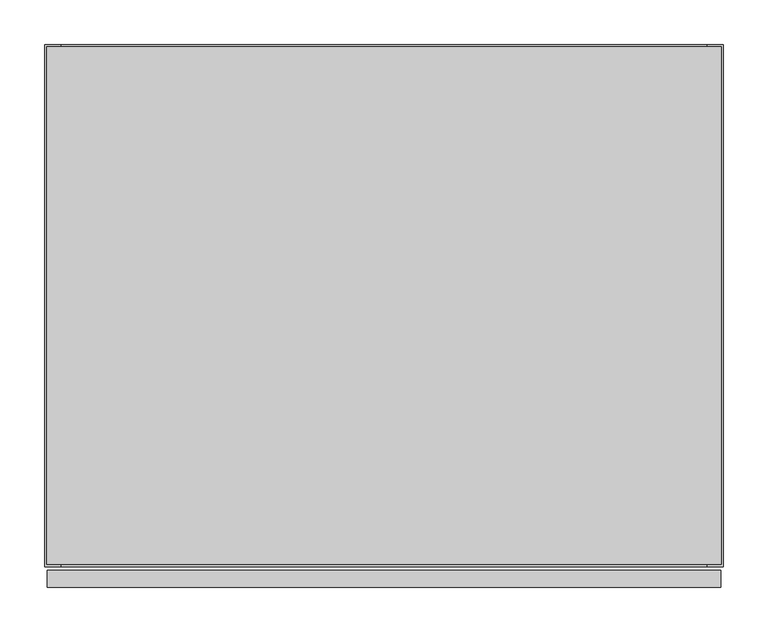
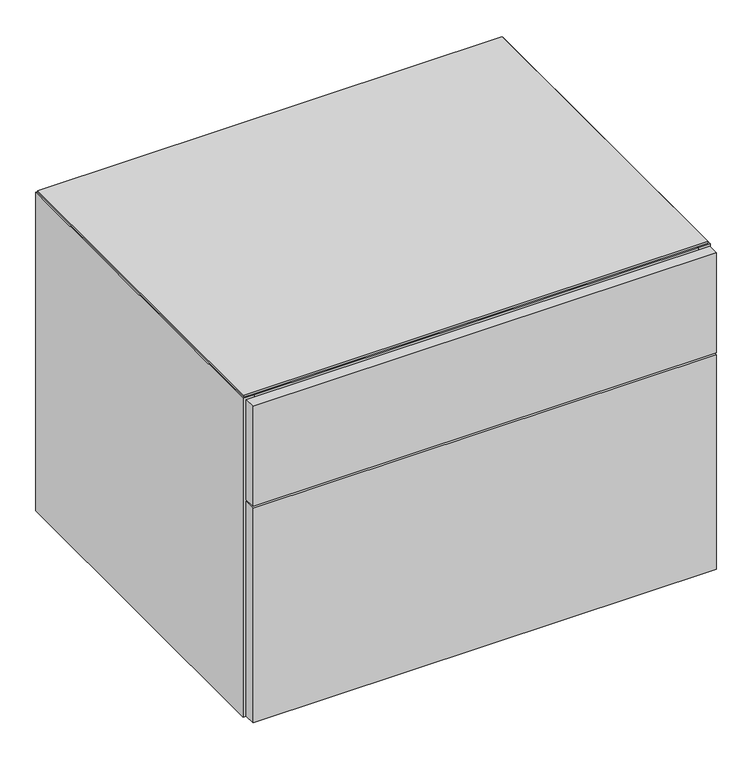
"""IFC4 building model written with IfcOpenShell, lengths in millimetres: furniture geometry, Geiger_GeigerOneCasegoods_LowStorage1Box1File : Vertical Veneer 30Wx24Dx21.75H."""

from ifc_helpers import new_model, si_unit, point, frame, origin, place, context, project, spatial, polyline, circle_curve, ellipse_curve, trimmed, outline, extrude, source, transform, mapped, element, save
from ifc_brep_helpers import plane_surface, cylinder_surface, revolved_surface, advanced_brep


def furniture_3015be08(model_context):
    return source(origin(), model_context, "Body", "SolidModel", [
        extrude(outline(polyline([(19.0, -19.5), (743.0, -19.5), (743.0, -586.4), (19.0, -586.4), (19.0, -19.5)])), frame((0.0, 0.0, 73.2), z_axis=(0.0, 0.0, 1.0), x_axis=(1.0, 0.0, 0.0)), (0.0, 0.0, 1.0), 19.5072),
        extrude(outline(polyline([(3.0, -590.4), (759.0, -590.4), (759.0, -609.6), (3.0, -609.6), (3.0, -590.4)])), frame((0.0, 0.0, 15.7), z_axis=(0.0, 0.0, 1.0), x_axis=(1.0, 0.0, 0.0)), (0.0, 0.0, 1.0), 370.0),
        extrude(outline(polyline([(3.0, -590.4), (759.0, -590.4), (759.0, -609.6), (3.0, -609.6), (3.0, -590.4)])), frame((0.0, 0.0, 388.7), z_axis=(0.0, 0.0, 1.0), x_axis=(1.0, 0.0, 0.0)), (0.0, 0.0, 1.0), 172.2),
        extrude(outline(polyline([(19.0, -19.5), (743.0, -19.5), (743.0, -566.9), (19.0, -566.9), (19.0, -19.5)])), frame((0.0, 0.0, 12.7), z_axis=(0.0, 0.0, 1.0), x_axis=(1.0, 0.0, 0.0)), (0.0, 0.0, 1.0), 19.5),
        extrude(outline(polyline([(759.46, -2.54), (759.46, -583.86), (2.54, -583.86), (2.54, -2.54), (759.46, -2.54)])), frame((0.0, 0.0, 561.7), z_axis=(0.0, 0.0, 1.0), x_axis=(1.0, 0.0, 0.0)), (0.0, 0.0, 1.0), 3.2766),
        extrude(outline(polyline([(19.0, -95.7), (743.0, -95.7), (743.0, -586.4), (19.0, -586.4), (19.0, -95.7)])), frame((0.0, 0.0, 542.2), z_axis=(0.0, 0.0, 1.0), x_axis=(1.0, 0.0, 0.0)), (0.0, 0.0, 1.0), 19.5),
        extrude(outline(polyline([(743.0, -19.5), (19.0, -19.5), (19.0, 0.0), (743.0, 0.0), (743.0, -19.5)])), frame((0.0, 0.0, 12.7), z_axis=(0.0, 0.0, 1.0), x_axis=(1.0, 0.0, 0.0)), (0.0, 0.0, 1.0), 549.0),
        extrude(outline(polyline([(19.0, -566.9), (743.0, -566.9), (743.0, -586.4), (19.0, -586.4), (19.0, -566.9)])), frame((0.0, 0.0, 12.7), z_axis=(0.0, 0.0, 1.0), x_axis=(1.0, 0.0, 0.0)), (0.0, 0.0, 1.0), 60.5),
        extrude(outline(polyline([(19.0, -586.4), (0.0, -586.4), (0.0, -0.5), (19.0, -0.5), (19.0, -586.4)])), frame((0.0, 0.0, 12.7), z_axis=(0.0, 0.0, 1.0), x_axis=(1.0, 0.0, 0.0)), (0.0, 0.0, 1.0), 549.0),
        extrude(outline(polyline([(762.0, -586.4), (743.0, -586.4), (743.0, -0.5), (762.0, -0.5), (762.0, -586.4)])), frame((0.0, 0.0, 12.7), z_axis=(0.0, 0.0, 1.0), x_axis=(1.0, 0.0, 0.0)), (0.0, 0.0, 1.0), 549.0),
        advanced_brep(
        [(94.0575663, -528.9165105, 0.0), (71.9424337, -528.9165105, 0.0), (83.0, -528.9165105, 0.0), (94.0575663, -528.9165105, 9.5), (71.9424337, -528.9165105, 9.5), (87.066455, -528.9165105, 9.5), (78.933545, -528.9165105, 9.5), (87.066455, -528.9165105, 12.7), (78.933545, -528.9165105, 12.7), (83.0, -528.9165105, 12.7)],
        [
            (0, 1, circle_curve(frame((83.0, -528.9165105, 0.0), z_axis=(0.0, 0.0, -1.0), x_axis=(-1.0, 0.0, 0.0)), 11.0575663)),
            (1, 2),
            (2, 0),
            (1, 0, circle_curve(frame((83.0, -528.9165105, 0.0), z_axis=(0.0, 0.0, -1.0), x_axis=(-1.0, 0.0, 0.0)), 11.0575663)),
            (0, 3, circle_curve(frame((94.0575663, -528.9165105, 4.75), z_axis=(0.0, -1.0, 0.0), x_axis=(1.0, 0.0, 0.0)), 4.75)),
            (3, 4, circle_curve(frame((83.0, -528.9165105, 9.5), z_axis=(0.0, 0.0, -1.0), x_axis=(-1.0, 0.0, 0.0)), 11.0575663)),
            (4, 1, circle_curve(frame((71.9424337, -528.9165105, 4.75), z_axis=(0.0, -1.0, 0.0), x_axis=(-1.0, 0.0, 0.0)), 4.75)),
            (4, 3, circle_curve(frame((83.0, -528.9165105, 9.5), z_axis=(0.0, 0.0, -1.0), x_axis=(-1.0, 0.0, 0.0)), 11.0575663)),
            (3, 5),
            (5, 6, circle_curve(frame((83.0, -528.9165105, 9.5), z_axis=(0.0, 0.0, -1.0), x_axis=(-1.0, 0.0, 0.0)), 4.066455)),
            (6, 4),
            (6, 5, circle_curve(frame((83.0, -528.9165105, 9.5), z_axis=(0.0, 0.0, -1.0), x_axis=(-1.0, 0.0, 0.0)), 4.066455)),
            (5, 7),
            (7, 8, circle_curve(frame((83.0, -528.9165105, 12.7), z_axis=(0.0, 0.0, -1.0), x_axis=(-1.0, 0.0, 0.0)), 4.066455)),
            (8, 6),
            (8, 7, circle_curve(frame((83.0, -528.9165105, 12.7), z_axis=(0.0, 0.0, -1.0), x_axis=(-1.0, 0.0, 0.0)), 4.066455)),
            (7, 9),
            (9, 8),
        ],
        [
            plane_surface(frame((83.0, -528.9165105, 0.0), z_axis=(0.0, 0.0, -1.0), x_axis=(-1.0, 0.0, 0.0))),
            revolved_surface(trimmed(ellipse_curve(frame((71.9424337, -528.9165105, 4.75), z_axis=(0.0, 1.0, 0.0), x_axis=(-1.0, 0.0, 0.0)), 4.75, 4.75), [point((71.9424337, -528.9165105, 0.0))], [point((71.9424337, -528.9165105, 9.5))], True, "CARTESIAN"), (83.0, -528.9165105, 0.0), (0.0, 0.0, 1.0)),
            plane_surface(frame((83.0, -528.9165105, 9.5), z_axis=(0.0, 0.0, 1.0), x_axis=(-1.0, 0.0, 0.0))),
            cylinder_surface(frame((83.0, -528.9165105, 0.0), z_axis=(0.0, 0.0, 1.0), x_axis=(-1.0, 0.0, 0.0)), 4.066455),
            plane_surface(frame((83.0, -528.9165105, 12.7), z_axis=(0.0, 0.0, 1.0), x_axis=(-1.0, 0.0, 0.0))),
        ],
        [
            (0, [[1, 2, 3]]),
            (0, [[-2, 4, -3]]),
            (1, [[-1, 5, 6, 7]]),
            (1, [[-4, -7, 8, -5]]),
            (2, [[-6, 9, 10, 11]]),
            (2, [[-8, -11, 12, -9]]),
            (3, [[-10, 13, 14, 15]]),
            (3, [[-12, -15, 16, -13]]),
            (4, [[-14, 17, 18]]),
            (4, [[-16, -18, -17]]),
        ],
    ),
        advanced_brep(
        [(94.0575663, -127.0, 0.0), (71.9424337, -127.0, 0.0), (83.0, -127.0, 0.0), (94.0575663, -127.0, 9.5), (71.9424337, -127.0, 9.5), (87.066455, -127.0, 9.5), (78.933545, -127.0, 9.5), (87.066455, -127.0, 12.7), (78.933545, -127.0, 12.7), (83.0, -127.0, 12.7)],
        [
            (0, 1, circle_curve(frame((83.0, -127.0, 0.0), z_axis=(0.0, 0.0, -1.0), x_axis=(-1.0, 0.0, 0.0)), 11.0575663)),
            (1, 2),
            (2, 0),
            (1, 0, circle_curve(frame((83.0, -127.0, 0.0), z_axis=(0.0, 0.0, -1.0), x_axis=(-1.0, 0.0, 0.0)), 11.0575663)),
            (0, 3, circle_curve(frame((94.0575663, -127.0, 4.75), z_axis=(0.0, -1.0, 0.0), x_axis=(1.0, 0.0, 0.0)), 4.75)),
            (3, 4, circle_curve(frame((83.0, -127.0, 9.5), z_axis=(0.0, 0.0, -1.0), x_axis=(-1.0, 0.0, 0.0)), 11.0575663)),
            (4, 1, circle_curve(frame((71.9424337, -127.0, 4.75), z_axis=(0.0, -1.0, 0.0), x_axis=(-1.0, 0.0, 0.0)), 4.75)),
            (4, 3, circle_curve(frame((83.0, -127.0, 9.5), z_axis=(0.0, 0.0, -1.0), x_axis=(-1.0, 0.0, 0.0)), 11.0575663)),
            (3, 5),
            (5, 6, circle_curve(frame((83.0, -127.0, 9.5), z_axis=(0.0, 0.0, -1.0), x_axis=(-1.0, 0.0, 0.0)), 4.066455)),
            (6, 4),
            (6, 5, circle_curve(frame((83.0, -127.0, 9.5), z_axis=(0.0, 0.0, -1.0), x_axis=(-1.0, 0.0, 0.0)), 4.066455)),
            (5, 7),
            (7, 8, circle_curve(frame((83.0, -127.0, 12.7), z_axis=(0.0, 0.0, -1.0), x_axis=(-1.0, 0.0, 0.0)), 4.066455)),
            (8, 6),
            (8, 7, circle_curve(frame((83.0, -127.0, 12.7), z_axis=(0.0, 0.0, -1.0), x_axis=(-1.0, 0.0, 0.0)), 4.066455)),
            (7, 9),
            (9, 8),
        ],
        [
            plane_surface(frame((83.0, -127.0, 0.0), z_axis=(0.0, 0.0, -1.0), x_axis=(-1.0, 0.0, 0.0))),
            revolved_surface(trimmed(ellipse_curve(frame((71.9424337, -127.0, 4.75), z_axis=(0.0, 1.0, 0.0), x_axis=(-1.0, 0.0, 0.0)), 4.75, 4.75), [point((71.9424337, -127.0, 0.0))], [point((71.9424337, -127.0, 9.5))], True, "CARTESIAN"), (83.0, -127.0, 0.0), (0.0, 0.0, 1.0)),
            plane_surface(frame((83.0, -127.0, 9.5), z_axis=(0.0, 0.0, 1.0), x_axis=(-1.0, 0.0, 0.0))),
            cylinder_surface(frame((83.0, -127.0, 0.0), z_axis=(0.0, 0.0, 1.0), x_axis=(-1.0, 0.0, 0.0)), 4.066455),
            plane_surface(frame((83.0, -127.0, 12.7), z_axis=(0.0, 0.0, 1.0), x_axis=(-1.0, 0.0, 0.0))),
        ],
        [
            (0, [[1, 2, 3]]),
            (0, [[-2, 4, -3]]),
            (1, [[-1, 5, 6, 7]]),
            (1, [[-4, -7, 8, -5]]),
            (2, [[-6, 9, 10, 11]]),
            (2, [[-8, -11, 12, -9]]),
            (3, [[-10, 13, 14, 15]]),
            (3, [[-12, -15, 16, -13]]),
            (4, [[-14, 17, 18]]),
            (4, [[-16, -18, -17]]),
        ],
    ),
        advanced_brep(
        [(679.0, -528.9165105, 0.0), (690.0575663, -528.9165105, 0.0), (667.9424337, -528.9165105, 0.0), (690.0575663, -528.9165105, 9.5), (667.9424337, -528.9165105, 9.5), (683.066455, -528.9165105, 9.5), (674.933545, -528.9165105, 9.5), (683.066455, -528.9165105, 12.7), (674.933545, -528.9165105, 12.7), (679.0, -528.9165105, 12.7)],
        [
            (0, 1),
            (1, 2, circle_curve(frame((679.0, -528.9165105, 0.0), z_axis=(0.0, 0.0, -1.0), x_axis=(1.0, 0.0, 0.0)), 11.0575663)),
            (2, 0),
            (2, 1, circle_curve(frame((679.0, -528.9165105, 0.0), z_axis=(0.0, 0.0, -1.0), x_axis=(1.0, 0.0, 0.0)), 11.0575663)),
            (1, 3, circle_curve(frame((690.0575663, -528.9165105, 4.75), z_axis=(0.0, -1.0, 0.0), x_axis=(-1.0, 0.0, 0.0)), 4.75)),
            (3, 4, circle_curve(frame((679.0, -528.9165105, 9.5), z_axis=(0.0, 0.0, -1.0), x_axis=(1.0, 0.0, 0.0)), 11.0575663)),
            (4, 2, circle_curve(frame((667.9424337, -528.9165105, 4.75), z_axis=(0.0, -1.0, 0.0), x_axis=(1.0, 0.0, 0.0)), 4.75)),
            (4, 3, circle_curve(frame((679.0, -528.9165105, 9.5), z_axis=(0.0, 0.0, -1.0), x_axis=(1.0, 0.0, 0.0)), 11.0575663)),
            (3, 5),
            (5, 6, circle_curve(frame((679.0, -528.9165105, 9.5), z_axis=(0.0, 0.0, -1.0), x_axis=(1.0, 0.0, 0.0)), 4.066455)),
            (6, 4),
            (6, 5, circle_curve(frame((679.0, -528.9165105, 9.5), z_axis=(0.0, 0.0, -1.0), x_axis=(1.0, 0.0, 0.0)), 4.066455)),
            (5, 7),
            (7, 8, circle_curve(frame((679.0, -528.9165105, 12.7), z_axis=(0.0, 0.0, -1.0), x_axis=(1.0, 0.0, 0.0)), 4.066455)),
            (8, 6),
            (8, 7, circle_curve(frame((679.0, -528.9165105, 12.7), z_axis=(0.0, 0.0, -1.0), x_axis=(1.0, 0.0, 0.0)), 4.066455)),
            (7, 9),
            (9, 8),
        ],
        [
            plane_surface(frame((679.0, -528.9165105, 0.0), z_axis=(0.0, 0.0, -1.0), x_axis=(1.0, 0.0, 0.0))),
            revolved_surface(trimmed(ellipse_curve(frame((690.0575663, -528.9165105, 4.75), z_axis=(0.0, 1.0, 0.0), x_axis=(-1.0, 0.0, 0.0)), 4.75, 4.75), [point((690.0575663, -528.9165105, 9.5))], [point((690.0575663, -528.9165105, 0.0))], True, "CARTESIAN"), (679.0, -528.9165105, 0.0), (0.0, 0.0, -1.0)),
            plane_surface(frame((679.0, -528.9165105, 9.5), z_axis=(0.0, 0.0, 1.0), x_axis=(1.0, 0.0, 0.0))),
            cylinder_surface(frame((679.0, -528.9165105, 0.0), z_axis=(0.0, 0.0, -1.0), x_axis=(1.0, 0.0, 0.0)), 4.066455),
            plane_surface(frame((679.0, -528.9165105, 12.7), z_axis=(0.0, 0.0, 1.0), x_axis=(1.0, 0.0, 0.0))),
        ],
        [
            (0, [[1, 2, 3]]),
            (0, [[-1, -3, 4]]),
            (1, [[-2, 5, 6, 7]]),
            (1, [[-4, -7, 8, -5]]),
            (2, [[-6, 9, 10, 11]]),
            (2, [[-8, -11, 12, -9]]),
            (3, [[-10, 13, 14, 15]]),
            (3, [[-12, -15, 16, -13]]),
            (4, [[-14, 17, 18]]),
            (4, [[-16, -18, -17]]),
        ],
    ),
        advanced_brep(
        [(679.0, -127.0, 0.0), (690.0575663, -127.0, 0.0), (667.9424337, -127.0, 0.0), (690.0575663, -127.0, 9.5), (667.9424337, -127.0, 9.5), (683.066455, -127.0, 9.5), (674.933545, -127.0, 9.5), (683.066455, -127.0, 12.7), (674.933545, -127.0, 12.7), (679.0, -127.0, 12.7)],
        [
            (0, 1),
            (1, 2, circle_curve(frame((679.0, -127.0, 0.0), z_axis=(0.0, 0.0, -1.0), x_axis=(1.0, 0.0, 0.0)), 11.0575663)),
            (2, 0),
            (2, 1, circle_curve(frame((679.0, -127.0, 0.0), z_axis=(0.0, 0.0, -1.0), x_axis=(1.0, 0.0, 0.0)), 11.0575663)),
            (1, 3, circle_curve(frame((690.0575663, -127.0, 4.75), z_axis=(0.0, -1.0, 0.0), x_axis=(-1.0, 0.0, 0.0)), 4.75)),
            (3, 4, circle_curve(frame((679.0, -127.0, 9.5), z_axis=(0.0, 0.0, -1.0), x_axis=(1.0, 0.0, 0.0)), 11.0575663)),
            (4, 2, circle_curve(frame((667.9424337, -127.0, 4.75), z_axis=(0.0, -1.0, 0.0), x_axis=(1.0, 0.0, 0.0)), 4.75)),
            (4, 3, circle_curve(frame((679.0, -127.0, 9.5), z_axis=(0.0, 0.0, -1.0), x_axis=(1.0, 0.0, 0.0)), 11.0575663)),
            (3, 5),
            (5, 6, circle_curve(frame((679.0, -127.0, 9.5), z_axis=(0.0, 0.0, -1.0), x_axis=(1.0, 0.0, 0.0)), 4.066455)),
            (6, 4),
            (6, 5, circle_curve(frame((679.0, -127.0, 9.5), z_axis=(0.0, 0.0, -1.0), x_axis=(1.0, 0.0, 0.0)), 4.066455)),
            (5, 7),
            (7, 8, circle_curve(frame((679.0, -127.0, 12.7), z_axis=(0.0, 0.0, -1.0), x_axis=(1.0, 0.0, 0.0)), 4.066455)),
            (8, 6),
            (8, 7, circle_curve(frame((679.0, -127.0, 12.7), z_axis=(0.0, 0.0, -1.0), x_axis=(1.0, 0.0, 0.0)), 4.066455)),
            (7, 9),
            (9, 8),
        ],
        [
            plane_surface(frame((679.0, -127.0, 0.0), z_axis=(0.0, 0.0, -1.0), x_axis=(1.0, 0.0, 0.0))),
            revolved_surface(trimmed(ellipse_curve(frame((690.0575663, -127.0, 4.75), z_axis=(0.0, 1.0, 0.0), x_axis=(-1.0, 0.0, 0.0)), 4.75, 4.75), [point((690.0575663, -127.0, 9.5))], [point((690.0575663, -127.0, 0.0))], True, "CARTESIAN"), (679.0, -127.0, 0.0), (0.0, 0.0, -1.0)),
            plane_surface(frame((679.0, -127.0, 9.5), z_axis=(0.0, 0.0, 1.0), x_axis=(1.0, 0.0, 0.0))),
            cylinder_surface(frame((679.0, -127.0, 0.0), z_axis=(0.0, 0.0, -1.0), x_axis=(1.0, 0.0, 0.0)), 4.066455),
            plane_surface(frame((679.0, -127.0, 12.7), z_axis=(0.0, 0.0, 1.0), x_axis=(1.0, 0.0, 0.0))),
        ],
        [
            (0, [[1, 2, 3]]),
            (0, [[-1, -3, 4]]),
            (1, [[-2, 5, 6, 7]]),
            (1, [[-4, -7, 8, -5]]),
            (2, [[-6, 9, 10, 11]]),
            (2, [[-8, -11, 12, -9]]),
            (3, [[-10, 13, 14, 15]]),
            (3, [[-12, -15, 16, -13]]),
            (4, [[-14, 17, 18]]),
            (4, [[-16, -18, -17]]),
        ],
    ),
    ])


if __name__ == "__main__":
    model = new_model("IFC4")
    model_context = context("Model", 3, world=origin())
    ifc_project = project(units=[si_unit("LENGTHUNIT", "METRE", prefix="MILLI")], contexts=[model_context])
    site = spatial("IfcSite", under=ifc_project)
    building = spatial("IfcBuilding", under=site)
    placement = place(None, origin())
    furniture_shape = furniture_3015be08(model_context)
    element("IfcFurniture", 1, ObjectType="Geiger_GeigerOneCasegoods_LowStorage1Box1File : Vertical Veneer 30Wx24Dx21.75H", at=placement, inside=building, context=model_context, shape_type="MappedRepresentation", body=[
        mapped(furniture_shape, transform((0.0, 0.0, 0.0), x_axis=(1.0, 0.0, 0.0), y_axis=(0.0, 1.0, 0.0), z_axis=(0.0, 0.0, 1.0))),
    ])
    save(model, "model.ifc")
